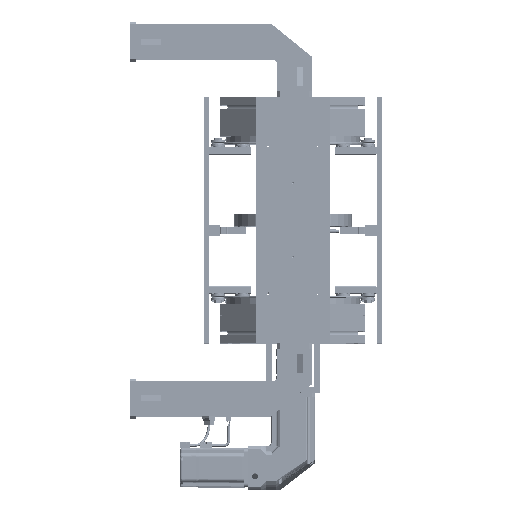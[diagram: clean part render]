
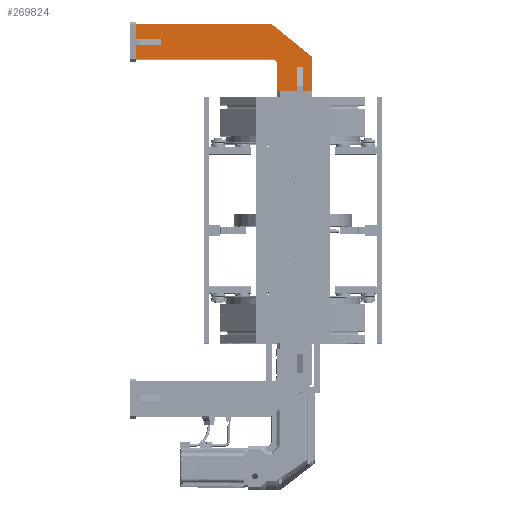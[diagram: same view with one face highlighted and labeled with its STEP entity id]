
A CAD part, top view. The second image highlights one B-rep face of the part: STEP entity #269824.
In plain terms, the highlighted planar face has unit normal (0, 0, 1) as drawn and (-1, 0, 0) by its records, which use the part's own axes.
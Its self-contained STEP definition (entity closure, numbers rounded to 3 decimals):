
#193 = VECTOR ( 'NONE', #61089, 1000. ) ;
#4469 = CARTESIAN_POINT ( 'NONE',  ( -7.5, -322.094, -106.777 ) ) ;
#4498 = DIRECTION ( 'NONE',  ( 0., 0., -1. ) ) ;
#7583 = LINE ( 'NONE', #183932, #164465 ) ;
#7891 = VERTEX_POINT ( 'NONE', #224696 ) ;
#15085 = EDGE_CURVE ( 'NONE', #140039, #213910, #34603, .T. ) ;
#19691 = ORIENTED_EDGE ( 'NONE', *, *, #209652, .F. ) ;
#24451 = CARTESIAN_POINT ( 'NONE',  ( -7.5, 35., 0. ) ) ;
#26964 = CARTESIAN_POINT ( 'NONE',  ( -7.5, -45.778, -135.777 ) ) ;
#30143 = VERTEX_POINT ( 'NONE', #66794 ) ;
#34603 = LINE ( 'NONE', #252532, #240616 ) ;
#34894 = CARTESIAN_POINT ( 'NONE',  ( -7.5, 4., -50. ) ) ;
#36762 = ORIENTED_EDGE ( 'NONE', *, *, #105707, .F. ) ;
#37261 = CARTESIAN_POINT ( 'NONE',  ( -7.5, 16., 0. ) ) ;
#37363 = EDGE_LOOP ( 'NONE', ( #160672, #240674, #84118, #184035, #181912, #19691, #257573, #159168, #82252, #239544, #122978, #165873, #36762, #46469, #105730, #49966 ) ) ;
#39095 = VERTEX_POINT ( 'NONE', #100037 ) ;
#40986 = CARTESIAN_POINT ( 'NONE',  ( -7.5, -45.778, -135.777 ) ) ;
#41142 = DIRECTION ( 'NONE',  ( 0., -1., 0. ) ) ;
#46469 = ORIENTED_EDGE ( 'NONE', *, *, #57186, .F. ) ;
#49966 = ORIENTED_EDGE ( 'NONE', *, *, #120524, .T. ) ;
#53917 = LINE ( 'NONE', #67795, #269611 ) ;
#57186 = EDGE_CURVE ( 'NONE', #186004, #117609, #108864, .T. ) ;
#58133 = VECTOR ( 'NONE', #222139, 1000. ) ;
#61089 = DIRECTION ( 'NONE',  ( 0., 1., 0. ) ) ;
#62530 = CARTESIAN_POINT ( 'NONE',  ( -7.5, -272.094, -106.777 ) ) ;
#66794 = CARTESIAN_POINT ( 'NONE',  ( -7.5, -322.094, -94.777 ) ) ;
#67795 = CARTESIAN_POINT ( 'NONE',  ( -7.5, -322.094, -65.777 ) ) ;
#70612 = DIRECTION ( 'NONE',  ( 0., 0., -1. ) ) ;
#71232 = LINE ( 'NONE', #73006, #250996 ) ;
#72135 = VERTEX_POINT ( 'NONE', #265289 ) ;
#73006 = CARTESIAN_POINT ( 'NONE',  ( -7.5, 35., 0. ) ) ;
#73760 = VECTOR ( 'NONE', #221631, 1000. ) ;
#73941 = EDGE_CURVE ( 'NONE', #205573, #30143, #53917, .T. ) ;
#74739 = CARTESIAN_POINT ( 'NONE',  ( -7.5, 16., 0. ) ) ;
#78674 = EDGE_CURVE ( 'NONE', #137262, #205573, #104031, .T. ) ;
#82252 = ORIENTED_EDGE ( 'NONE', *, *, #103634, .F. ) ;
#84118 = ORIENTED_EDGE ( 'NONE', *, *, #84909, .F. ) ;
#84909 = EDGE_CURVE ( 'NONE', #92763, #167007, #71232, .T. ) ;
#87677 = CARTESIAN_POINT ( 'NONE',  ( -7.5, -272.094, -94.777 ) ) ;
#87714 = CARTESIAN_POINT ( 'NONE',  ( -7.5, -322.094, -65.777 ) ) ;
#92579 = EDGE_CURVE ( 'NONE', #30143, #7891, #121020, .T. ) ;
#92763 = VERTEX_POINT ( 'NONE', #24451 ) ;
#93477 = CARTESIAN_POINT ( 'NONE',  ( -7.5, 16., -50. ) ) ;
#94853 = DIRECTION ( 'NONE',  ( 0., 0., -1. ) ) ;
#100037 = CARTESIAN_POINT ( 'NONE',  ( -7.5, 35., -70. ) ) ;
#103634 = EDGE_CURVE ( 'NONE', #7891, #213910, #149367, .T. ) ;
#104031 = LINE ( 'NONE', #209199, #241279 ) ;
#105707 = EDGE_CURVE ( 'NONE', #117609, #137262, #171510, .T. ) ;
#105730 = ORIENTED_EDGE ( 'NONE', *, *, #221340, .F. ) ;
#108864 = LINE ( 'NONE', #186757, #262356 ) ;
#111724 = PLANE ( 'NONE',  #262702 ) ;
#116167 = VECTOR ( 'NONE', #123660, 1000. ) ;
#117609 = VERTEX_POINT ( 'NONE', #219064 ) ;
#120524 = EDGE_CURVE ( 'NONE', #72135, #175222, #227404, .T. ) ;
#121020 = LINE ( 'NONE', #165151, #193 ) ;
#122283 = DIRECTION ( 'NONE',  ( 0., 0., 1. ) ) ;
#122978 = ORIENTED_EDGE ( 'NONE', *, *, #73941, .F. ) ;
#123660 = DIRECTION ( 'NONE',  ( 0., -0.775, -0.631 ) ) ;
#127361 = DIRECTION ( 'NONE',  ( 0., 1., 0. ) ) ;
#131777 = DIRECTION ( 'NONE',  ( 1., 0., 0. ) ) ;
#135097 = EDGE_CURVE ( 'NONE', #138791, #39095, #260829, .T. ) ;
#136639 = VECTOR ( 'NONE', #254495, 1000. ) ;
#137262 = VERTEX_POINT ( 'NONE', #218188 ) ;
#138791 = VERTEX_POINT ( 'NONE', #26964 ) ;
#140039 = VERTEX_POINT ( 'NONE', #4469 ) ;
#140076 = EDGE_CURVE ( 'NONE', #167007, #157807, #206966, .T. ) ;
#143866 = DIRECTION ( 'NONE',  ( 0., 0., -1. ) ) ;
#144857 = VECTOR ( 'NONE', #94853, 1000. ) ;
#149367 = LINE ( 'NONE', #87677, #234281 ) ;
#149462 = EDGE_CURVE ( 'NONE', #39095, #92763, #168308, .T. ) ;
#157807 = VERTEX_POINT ( 'NONE', #93477 ) ;
#159168 = ORIENTED_EDGE ( 'NONE', *, *, #15085, .T. ) ;
#160672 = ORIENTED_EDGE ( 'NONE', *, *, #168596, .F. ) ;
#164465 = VECTOR ( 'NONE', #246957, 1000. ) ;
#165151 = CARTESIAN_POINT ( 'NONE',  ( -7.5, -272.094, -94.777 ) ) ;
#165873 = ORIENTED_EDGE ( 'NONE', *, *, #78674, .F. ) ;
#167007 = VERTEX_POINT ( 'NONE', #37261 ) ;
#168308 = LINE ( 'NONE', #182571, #220780 ) ;
#168596 = EDGE_CURVE ( 'NONE', #157807, #175222, #260690, .T. ) ;
#171510 = LINE ( 'NONE', #207672, #116167 ) ;
#171768 = VECTOR ( 'NONE', #183949, 1000. ) ;
#172608 = VECTOR ( 'NONE', #211729, 1000. ) ;
#175222 = VERTEX_POINT ( 'NONE', #34894 ) ;
#178800 = DIRECTION ( 'NONE',  ( 0., -1., 0. ) ) ;
#181912 = ORIENTED_EDGE ( 'NONE', *, *, #135097, .F. ) ;
#182571 = CARTESIAN_POINT ( 'NONE',  ( -7.5, 35., 0. ) ) ;
#183932 = CARTESIAN_POINT ( 'NONE',  ( -7.5, -322.094, -65.777 ) ) ;
#183949 = DIRECTION ( 'NONE',  ( 0., 0., -1. ) ) ;
#184035 = ORIENTED_EDGE ( 'NONE', *, *, #149462, .F. ) ;
#186004 = VERTEX_POINT ( 'NONE', #223584 ) ;
#186757 = CARTESIAN_POINT ( 'NONE',  ( -7.5, -35., 0. ) ) ;
#205573 = VERTEX_POINT ( 'NONE', #87714 ) ;
#206966 = LINE ( 'NONE', #74739, #144857 ) ;
#207672 = CARTESIAN_POINT ( 'NONE',  ( -7.5, -35., -60. ) ) ;
#209199 = CARTESIAN_POINT ( 'NONE',  ( -7.5, -42.094, -65.777 ) ) ;
#209652 = EDGE_CURVE ( 'NONE', #261880, #138791, #270724, .T. ) ;
#211729 = DIRECTION ( 'NONE',  ( 0., 1., 0. ) ) ;
#212484 = CARTESIAN_POINT ( 'NONE',  ( -7.5, 35., -70. ) ) ;
#213906 = DIRECTION ( 'NONE',  ( 0., 0., -1. ) ) ;
#213910 = VERTEX_POINT ( 'NONE', #62530 ) ;
#214875 = CARTESIAN_POINT ( 'NONE',  ( -7.5, 0., 0. ) ) ;
#218188 = CARTESIAN_POINT ( 'NONE',  ( -7.5, -42.094, -65.777 ) ) ;
#219064 = CARTESIAN_POINT ( 'NONE',  ( -7.5, -35., -60. ) ) ;
#220780 = VECTOR ( 'NONE', #122283, 1000. ) ;
#221340 = EDGE_CURVE ( 'NONE', #72135, #186004, #246921, .T. ) ;
#221631 = DIRECTION ( 'NONE',  ( 0., -1., 0. ) ) ;
#222139 = DIRECTION ( 'NONE',  ( 0., -1., 0. ) ) ;
#223584 = CARTESIAN_POINT ( 'NONE',  ( -7.5, -35., 0. ) ) ;
#224696 = CARTESIAN_POINT ( 'NONE',  ( -7.5, -272.094, -94.777 ) ) ;
#227404 = LINE ( 'NONE', #246068, #171768 ) ;
#234281 = VECTOR ( 'NONE', #4498, 1000. ) ;
#239544 = ORIENTED_EDGE ( 'NONE', *, *, #92579, .F. ) ;
#240224 = CARTESIAN_POINT ( 'NONE',  ( -7.5, -322.094, -135.777 ) ) ;
#240616 = VECTOR ( 'NONE', #127361, 1000. ) ;
#240674 = ORIENTED_EDGE ( 'NONE', *, *, #140076, .F. ) ;
#241279 = VECTOR ( 'NONE', #41142, 1000. ) ;
#243137 = CARTESIAN_POINT ( 'NONE',  ( -7.5, 16., -50. ) ) ;
#246068 = CARTESIAN_POINT ( 'NONE',  ( -7.5, 4., 0. ) ) ;
#246921 = LINE ( 'NONE', #260919, #73760 ) ;
#246957 = DIRECTION ( 'NONE',  ( 0., 0., -1. ) ) ;
#248042 = FACE_OUTER_BOUND ( 'NONE', #37363, .T. ) ;
#250996 = VECTOR ( 'NONE', #178800, 1000. ) ;
#252532 = CARTESIAN_POINT ( 'NONE',  ( -7.5, -272.094, -106.777 ) ) ;
#254495 = DIRECTION ( 'NONE',  ( 0., 0.775, 0.631 ) ) ;
#257573 = ORIENTED_EDGE ( 'NONE', *, *, #264273, .F. ) ;
#260690 = LINE ( 'NONE', #243137, #58133 ) ;
#260829 = LINE ( 'NONE', #212484, #136639 ) ;
#260919 = CARTESIAN_POINT ( 'NONE',  ( -7.5, 35., 0. ) ) ;
#261880 = VERTEX_POINT ( 'NONE', #240224 ) ;
#262356 = VECTOR ( 'NONE', #143866, 1000. ) ;
#262702 = AXIS2_PLACEMENT_3D ( 'NONE', #214875, #131777, #70612 ) ;
#264273 = EDGE_CURVE ( 'NONE', #140039, #261880, #7583, .T. ) ;
#265289 = CARTESIAN_POINT ( 'NONE',  ( -7.5, 4., 0. ) ) ;
#269611 = VECTOR ( 'NONE', #213906, 1000. ) ;
#269824 = ADVANCED_FACE ( 'NONE', ( #248042 ), #111724, .F. ) ;
#270724 = LINE ( 'NONE', #40986, #172608 ) ;
